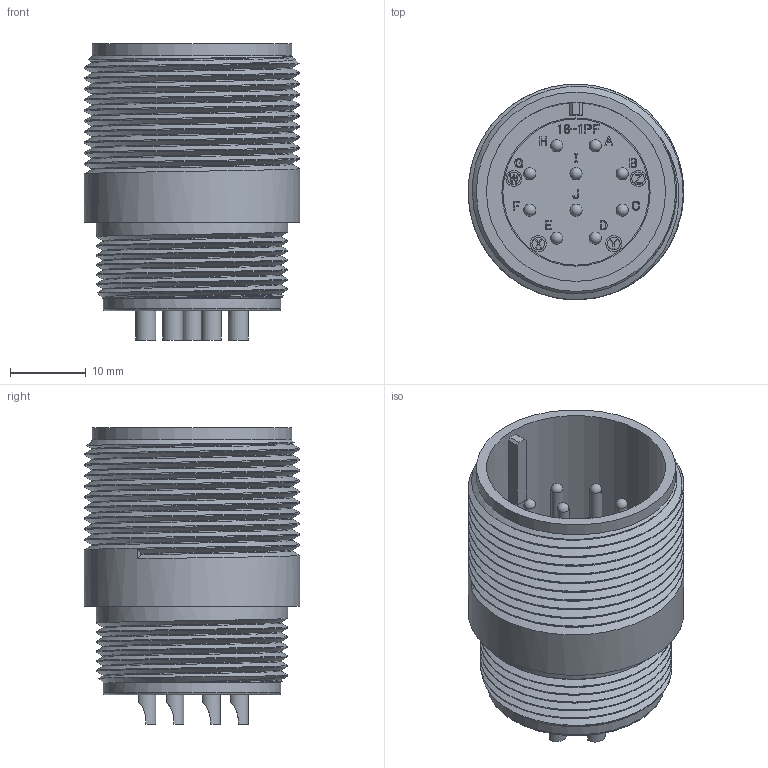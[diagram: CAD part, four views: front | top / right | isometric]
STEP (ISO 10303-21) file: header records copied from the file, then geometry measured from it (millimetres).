
FILE_DESCRIPTION (( 'STEP AP203' ), '1' );
FILE_NAME ('DMS3101A18-1P(D263).STEP', '2022-01-28T01:28:44', ( '' ), ( '' ), 'SwSTEP 2.0', 'SolidWorks 2018', '' );
FILE_SCHEMA (( 'CONFIG_CONTROL_DESIGN' ));
Length unit declared in the file: millimetre
Products named in the file (1): DMS3101A18-1P(D263)
Bounding box: 28.48 x 28.48 x 39.2 mm (x, y, z)
Volume: 10656.4 mm3; surface area: 9117.1 mm2
Topology: 1 solids, 1 shells, 915 faces, 2442 edges, 1607 vertices
Faces by surface type: plane 497, bspline 291, cylinder 113, sphere 10, cone 2, torus 2
Full cylindrical faces by diameter (mm): 1.59 x10, 17.45 x1, 19.32 x1, 19.59 x1, 21.08 x1, 23.5 x1, 23.68 x1, 25.31 x6, 26.35 x1, 28.48 x10
Entity records: 39293 total; most frequent: CARTESIAN_POINT 19240, ORIENTED_EDGE 4672, DIRECTION 3004, EDGE_CURVE 2336, VERTEX_POINT 1559, LINE 1540, VECTOR 1540, EDGE_LOOP 1019
